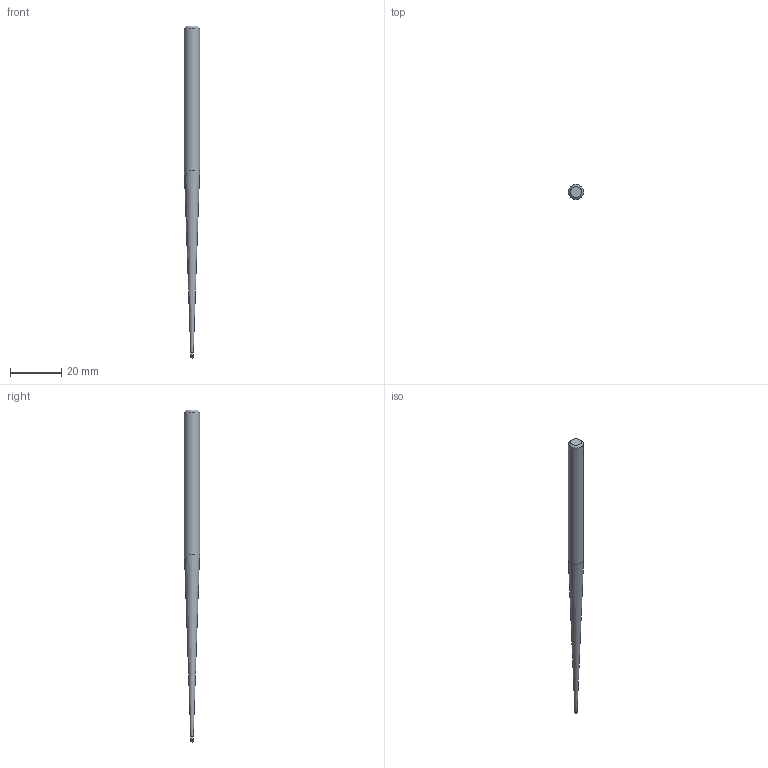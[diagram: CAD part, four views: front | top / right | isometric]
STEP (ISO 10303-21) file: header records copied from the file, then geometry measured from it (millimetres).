
FILE_DESCRIPTION((''),'2;1');
FILE_NAME('C:\Users\nsx150\AppData\Local\Temp\Mastercam 2021\SNAKH10GOD\TEMP.step','2021-10-21T13:32:23',(''),(''),'STEP Write','Mastercam 2021 ... CNC Software, Inc.','');
FILE_SCHEMA(('AUTOMOTIVE_DESIGN'));
Length unit declared in the file: millimetre
Products named in the file (1): None
Bounding box: 6 x 6 x 130 mm (x, y, z)
Volume: 2396.1 mm3; surface area: 1876.4 mm2
Topology: 2 solids, 2 shells, 9 faces, 14 edges, 8 vertices
Faces by surface type: plane 3, cylinder 3, cone 2, sphere 1
Full cylindrical faces by diameter (mm): 0.985 x1, 1 x1, 6 x1
Entity records: 211 total; most frequent: DIRECTION 36, CARTESIAN_POINT 25, AXIS2_PLACEMENT_3D 18, ORIENTED_EDGE 14, EDGE_LOOP 14, STYLED_ITEM 12, ADVANCED_FACE 9, FACE_BOUND 8
